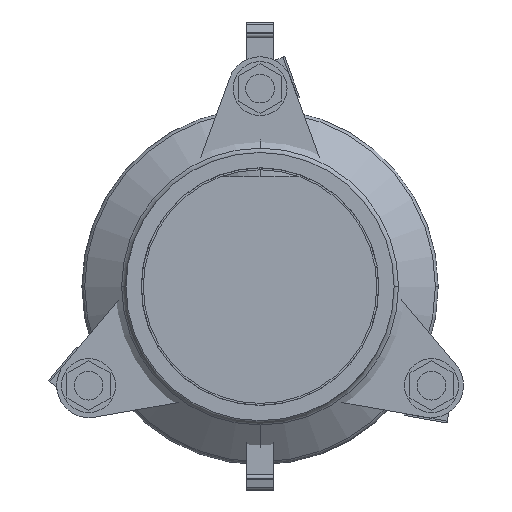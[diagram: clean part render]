
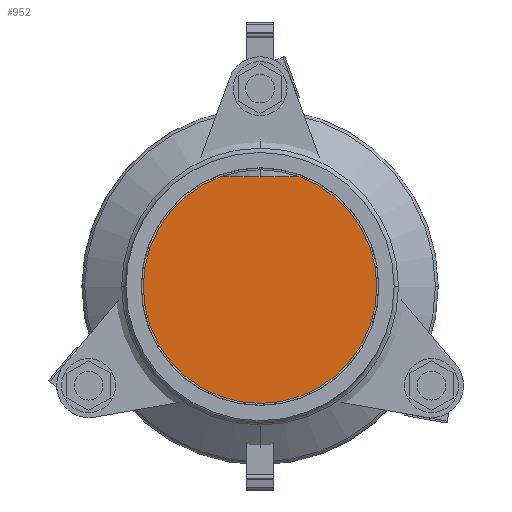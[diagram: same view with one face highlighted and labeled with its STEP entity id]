
A CAD part, left-side view. The second image highlights one B-rep face of the part: STEP entity #952.
In plain terms, the highlighted planar face has unit normal (-1, 0, 0).
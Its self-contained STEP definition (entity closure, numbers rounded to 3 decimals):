
#952=ADVANCED_FACE('',(#1858),#1859,.T.);
#1858=FACE_OUTER_BOUND('',#2972,.T.);
#1859=PLANE('',#2973);
#2972=EDGE_LOOP('',(#4589,#4590));
#2973=AXIS2_PLACEMENT_3D('',#4591,#4592,#4593);
#4589=ORIENTED_EDGE('',*,*,#6482,.T.);
#4590=ORIENTED_EDGE('',*,*,#6516,.T.);
#4591=CARTESIAN_POINT('',(89.5,0.0,0.));
#4592=DIRECTION('',(-1.0,0.0,0.));
#4593=DIRECTION('',(0.,0.0,-1.0));
#6482=EDGE_CURVE('',#7775,#7779,#7781,.T.);
#6516=EDGE_CURVE('',#7779,#7775,#7831,.T.);
#7775=VERTEX_POINT('',#9465);
#7779=VERTEX_POINT('',#9470);
#7781=CIRCLE('',#9473,76.0);
#7831=CIRCLE('',#9580,76.0);
#9465=CARTESIAN_POINT('',(89.5,0.0,-76.0));
#9470=CARTESIAN_POINT('',(89.5,0.,76.0));
#9473=AXIS2_PLACEMENT_3D('',#11085,#11086,#11087);
#9580=AXIS2_PLACEMENT_3D('',#11122,#11123,#11124);
#11085=CARTESIAN_POINT('',(89.5,0.0,0.));
#11086=DIRECTION('',(-1.0,0.0,0.));
#11087=DIRECTION('',(0.,0.0,-1.0));
#11122=CARTESIAN_POINT('',(89.5,0.0,0.));
#11123=DIRECTION('',(-1.0,0.0,0.));
#11124=DIRECTION('',(0.,0.0,-1.0));
